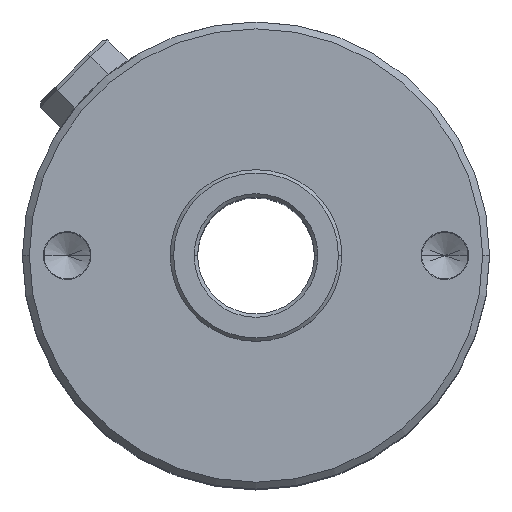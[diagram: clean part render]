
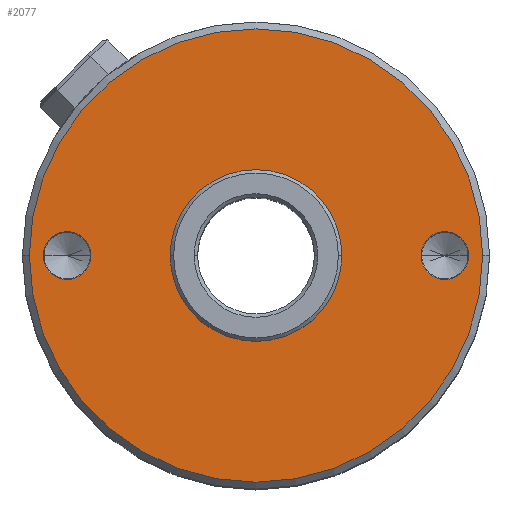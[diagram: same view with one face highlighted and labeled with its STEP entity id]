
A CAD part, top view. The second image highlights one B-rep face of the part: STEP entity #2077.
In plain terms, the highlighted planar face has unit normal (0, 0, 1).
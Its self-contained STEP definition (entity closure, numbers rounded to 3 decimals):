
#17 = CIRCLE ( 'NONE', #832, 33. ) ;
#26 = DIRECTION ( 'NONE',  ( 1., 0., 0. ) ) ;
#59 = DIRECTION ( 'NONE',  ( 1., 0., 0. ) ) ;
#68 = DIRECTION ( 'NONE',  ( 1., 0., 0. ) ) ;
#188 = FACE_BOUND ( 'NONE', #618, .T. ) ;
#195 = ORIENTED_EDGE ( 'NONE', *, *, #1557, .T. ) ;
#212 = CARTESIAN_POINT ( 'NONE',  ( 30.975, 0., 80. ) ) ;
#215 = DIRECTION ( 'NONE',  ( 1., 0., 0. ) ) ;
#257 = EDGE_LOOP ( 'NONE', ( #1871, #2115 ) ) ;
#317 = CARTESIAN_POINT ( 'NONE',  ( 27.5, 0., 80. ) ) ;
#318 = CIRCLE ( 'NONE', #1283, 12.5 ) ;
#327 = EDGE_CURVE ( 'NONE', #1792, #1908, #468, .T. ) ;
#374 = CIRCLE ( 'NONE', #994, 3.475 ) ;
#377 = CIRCLE ( 'NONE', #862, 3.475 ) ;
#378 = CARTESIAN_POINT ( 'NONE',  ( 12.5, 0., 80. ) ) ;
#404 = DIRECTION ( 'NONE',  ( 0., 0., -1. ) ) ;
#405 = CARTESIAN_POINT ( 'NONE',  ( 0., 0., 80. ) ) ;
#407 = FACE_BOUND ( 'NONE', #257, .T. ) ;
#424 = CIRCLE ( 'NONE', #1517, 3.475 ) ;
#468 = CIRCLE ( 'NONE', #1756, 12.5 ) ;
#479 = EDGE_LOOP ( 'NONE', ( #2076, #1174 ) ) ;
#490 = DIRECTION ( 'NONE',  ( 1., 0., 0. ) ) ;
#522 = ORIENTED_EDGE ( 'NONE', *, *, #1348, .T. ) ;
#541 = CARTESIAN_POINT ( 'NONE',  ( 0., 0., 80. ) ) ;
#572 = CARTESIAN_POINT ( 'NONE',  ( -33., 0., 80. ) ) ;
#592 = CARTESIAN_POINT ( 'NONE',  ( 0., 0., 80. ) ) ;
#618 = EDGE_LOOP ( 'NONE', ( #195, #2032 ) ) ;
#627 = DIRECTION ( 'NONE',  ( 0., 0., 1. ) ) ;
#647 = CIRCLE ( 'NONE', #756, 3.475 ) ;
#649 = EDGE_LOOP ( 'NONE', ( #522, #1992 ) ) ;
#669 = CARTESIAN_POINT ( 'NONE',  ( -30.975, 0., 80. ) ) ;
#673 = FACE_BOUND ( 'NONE', #649, .T. ) ;
#728 = DIRECTION ( 'NONE',  ( 1., 0., 0. ) ) ;
#753 = CARTESIAN_POINT ( 'NONE',  ( -27.5, 0., 80. ) ) ;
#756 = AXIS2_PLACEMENT_3D ( 'NONE', #317, #404, #490 ) ;
#769 = DIRECTION ( 'NONE',  ( 0., 0., 1. ) ) ;
#800 = DIRECTION ( 'NONE',  ( 0., 0., -1. ) ) ;
#832 = AXIS2_PLACEMENT_3D ( 'NONE', #1362, #1300, #1346 ) ;
#836 = DIRECTION ( 'NONE',  ( 1., 0., 0. ) ) ;
#855 = FACE_OUTER_BOUND ( 'NONE', #479, .T. ) ;
#862 = AXIS2_PLACEMENT_3D ( 'NONE', #1075, #1028, #1225 ) ;
#892 = PLANE ( 'NONE',  #1364 ) ;
#923 = DIRECTION ( 'NONE',  ( 0., 0., 1. ) ) ;
#994 = AXIS2_PLACEMENT_3D ( 'NONE', #1389, #1213, #59 ) ;
#1024 = CARTESIAN_POINT ( 'NONE',  ( 24.025, 0., 80. ) ) ;
#1028 = DIRECTION ( 'NONE',  ( 0., 0., -1. ) ) ;
#1075 = CARTESIAN_POINT ( 'NONE',  ( -27.5, 0., 80. ) ) ;
#1151 = VERTEX_POINT ( 'NONE', #1024 ) ;
#1167 = CARTESIAN_POINT ( 'NONE',  ( -24.025, 0., 80. ) ) ;
#1174 = ORIENTED_EDGE ( 'NONE', *, *, #1183, .T. ) ;
#1183 = EDGE_CURVE ( 'NONE', #1584, #1814, #17, .T. ) ;
#1213 = DIRECTION ( 'NONE',  ( 0., 0., -1. ) ) ;
#1225 = DIRECTION ( 'NONE',  ( 1., 0., 0. ) ) ;
#1246 = CARTESIAN_POINT ( 'NONE',  ( 0., 0., 80. ) ) ;
#1264 = VERTEX_POINT ( 'NONE', #669 ) ;
#1283 = AXIS2_PLACEMENT_3D ( 'NONE', #541, #627, #728 ) ;
#1300 = DIRECTION ( 'NONE',  ( 0., 0., 1. ) ) ;
#1323 = AXIS2_PLACEMENT_3D ( 'NONE', #592, #769, #26 ) ;
#1346 = DIRECTION ( 'NONE',  ( 1., 0., 0. ) ) ;
#1348 = EDGE_CURVE ( 'NONE', #2095, #1151, #647, .T. ) ;
#1354 = EDGE_CURVE ( 'NONE', #1814, #1584, #1935, .T. ) ;
#1362 = CARTESIAN_POINT ( 'NONE',  ( 0., 0., 80. ) ) ;
#1364 = AXIS2_PLACEMENT_3D ( 'NONE', #405, #1616, #215 ) ;
#1385 = CARTESIAN_POINT ( 'NONE',  ( -12.5, 0., 80. ) ) ;
#1389 = CARTESIAN_POINT ( 'NONE',  ( 27.5, 0., 80. ) ) ;
#1444 = EDGE_CURVE ( 'NONE', #1908, #1792, #318, .T. ) ;
#1517 = AXIS2_PLACEMENT_3D ( 'NONE', #753, #800, #836 ) ;
#1557 = EDGE_CURVE ( 'NONE', #2101, #1264, #424, .T. ) ;
#1584 = VERTEX_POINT ( 'NONE', #2111 ) ;
#1616 = DIRECTION ( 'NONE',  ( 0., 0., 1. ) ) ;
#1703 = EDGE_CURVE ( 'NONE', #1264, #2101, #377, .T. ) ;
#1741 = EDGE_CURVE ( 'NONE', #1151, #2095, #374, .T. ) ;
#1756 = AXIS2_PLACEMENT_3D ( 'NONE', #1246, #923, #68 ) ;
#1792 = VERTEX_POINT ( 'NONE', #378 ) ;
#1814 = VERTEX_POINT ( 'NONE', #572 ) ;
#1871 = ORIENTED_EDGE ( 'NONE', *, *, #1444, .F. ) ;
#1908 = VERTEX_POINT ( 'NONE', #1385 ) ;
#1935 = CIRCLE ( 'NONE', #1323, 33. ) ;
#1992 = ORIENTED_EDGE ( 'NONE', *, *, #1741, .T. ) ;
#2032 = ORIENTED_EDGE ( 'NONE', *, *, #1703, .T. ) ;
#2076 = ORIENTED_EDGE ( 'NONE', *, *, #1354, .T. ) ;
#2077 = ADVANCED_FACE ( 'NONE', ( #855, #673, #188, #407 ), #892, .T. ) ;
#2095 = VERTEX_POINT ( 'NONE', #212 ) ;
#2101 = VERTEX_POINT ( 'NONE', #1167 ) ;
#2111 = CARTESIAN_POINT ( 'NONE',  ( 33., 0., 80. ) ) ;
#2115 = ORIENTED_EDGE ( 'NONE', *, *, #327, .F. ) ;
